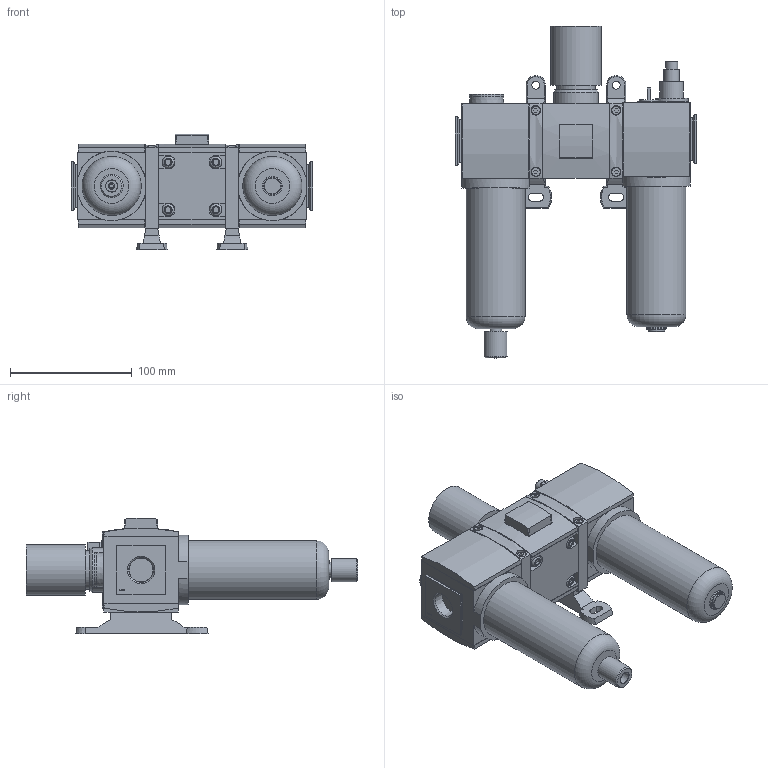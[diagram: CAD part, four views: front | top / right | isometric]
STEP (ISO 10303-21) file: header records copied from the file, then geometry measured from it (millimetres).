
FILE_DESCRIPTION( ( 'STEP AP214' ), '1' );
FILE_NAME( 'p:/temp/worker_228/temp/exporttempdir_5572_1166_RRjFf/format_0/07522020-190235_gen_23703.stp', '2020-02-07T18:52:37', ( '' ), ( '' ), ' ', 'PARTsolutions', ' ' );
FILE_SCHEMA( ( 'AUTOMOTIVE_DESIGN { 1 0 10303 214 1 1 1 1 }' ) );
Length unit declared in the file: millimetre
Products named in the file (16): 07522020-190235_gen_23703; _431787-003-F-A00PJBN1; _440511-008-P; _440512-002-N; _433441-001-R-0; _439851-002; _G652ASLA0B00A00_LS; _437794-003-F-HGL; _433441-001-R-H; _438047-009; _433879-001; _433894-001; _440508-001-STANDARD; _433456-015-F-KA00; _433441-002-SV-0; _440512-001_plug
Assembly tree (20 placements, depth 2):
  07522020-190235_gen_23703
    _431787-003-F-A00PJBN1
    _440511-008-P  x2
    _440512-002-N
    _433441-001-R-0  x3
    _439851-002
    _G652ASLA0B00A00_LS  x2
    _437794-003-F-HGL
    _433441-001-R-H
    _438047-009
    _433879-001
    _433894-001
    _440508-001-STANDARD
    _433456-015-F-KA00
    _433441-002-SV-0  x2
    _440512-001_plug
Bounding box: 198 x 272.52 x 94.91 mm (x, y, z)
Volume: 1372068.3 mm3; surface area: 231242.9 mm2
Topology: 20 solids, 20 shells, 690 faces, 1624 edges, 1054 vertices
Faces by surface type: plane 531, cylinder 98, cone 47, torus 13, sphere 1
Full cylindrical faces by diameter (mm): 2.8 x2, 3 x2, 5 x1, 5.6 x8, 6.3 x8, 6.5 x2, 7 x4, 7.8 x4, 9.728 x2, 10 x9, 13 x1, 13.5 x1, 15.875 x1, 16 x1, 19 x1, 19.2 x1, 19.4 x1, 27 x1, 28.5 x1, 31.6 x1, 37 x1, 41.845 x1, 48.5 x2
Entity records: 22105 total; most frequent: CARTESIAN_POINT 3218, DIRECTION 2803, ORIENTED_EDGE 2640, EDGE_CURVE 1320, LINE 1057, VECTOR 1057, VERTEX_POINT 916, AXIS2_PLACEMENT_3D 873
